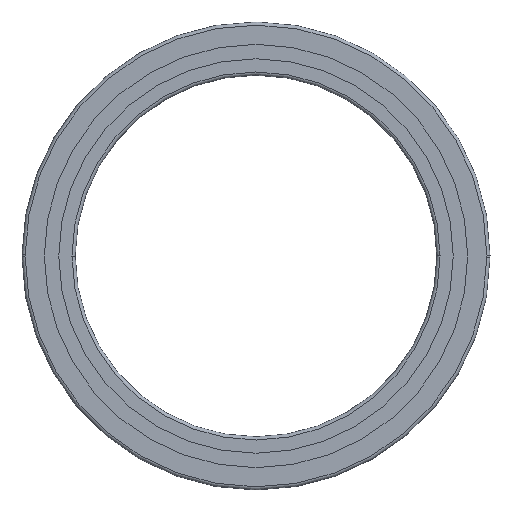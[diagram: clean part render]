
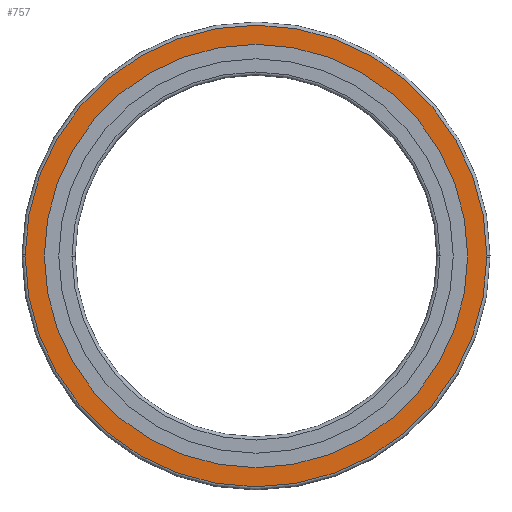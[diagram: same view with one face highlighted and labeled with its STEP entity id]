
A CAD part, front view. The second image highlights one B-rep face of the part: STEP entity #757.
In plain terms, the highlighted planar face has unit normal (0, -1, 0).
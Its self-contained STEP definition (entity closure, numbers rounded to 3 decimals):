
#343=VERTEX_POINT('',#882);
#379=VERTEX_POINT('',#924);
#427=VERTEX_POINT('',#979);
#497=EDGE_CURVE('',#617,#343,#1057,.T.);
#533=EDGE_CURVE('',#379,#427,#1097,.T.);
#561=VERTEX_POINT('',#1129);
#617=VERTEX_POINT('',#1193);
#631=EDGE_CURVE('',#343,#737,#1208,.T.);
#721=EDGE_CURVE('',#561,#617,#1309,.T.);
#737=VERTEX_POINT('',#1328);
#755=EDGE_CURVE('',#737,#561,#1348,.T.);
#757=ADVANCED_FACE('',(#1350,#1351),#1352,.F.);
#819=EDGE_CURVE('',#427,#379,#1420,.T.);
#882=CARTESIAN_POINT('',(-108.5,0.0,0.));
#924=CARTESIAN_POINT('',(-99.5,0.0,0.0));
#979=CARTESIAN_POINT('',(99.5,0.0,0.));
#1057=CIRCLE('',#1706,108.5);
#1097=CIRCLE('',#1759,99.5);
#1129=CARTESIAN_POINT('',(108.5,0.0,0.0));
#1193=CARTESIAN_POINT('',(-108.498,0.0,0.672));
#1208=CIRCLE('',#1892,108.5);
#1309=CIRCLE('',#2013,108.5);
#1328=CARTESIAN_POINT('',(108.498,0.0,-0.672));
#1348=CIRCLE('',#2063,108.5);
#1350=FACE_OUTER_BOUND('',#2065,.T.);
#1351=FACE_BOUND('',#2066,.T.);
#1352=PLANE('',#2067);
#1420=CIRCLE('',#2155,99.5);
#1706=AXIS2_PLACEMENT_3D('',#2430,#2431,#2432);
#1759=AXIS2_PLACEMENT_3D('',#2493,#2494,#2495);
#1892=AXIS2_PLACEMENT_3D('',#2635,#2636,#2637);
#2013=AXIS2_PLACEMENT_3D('',#2780,#2781,#2782);
#2063=AXIS2_PLACEMENT_3D('',#2829,#2830,#2831);
#2065=EDGE_LOOP('',(#2833,#2834,#2835,#2836));
#2066=EDGE_LOOP('',(#2837,#2838));
#2067=AXIS2_PLACEMENT_3D('',#2839,#2840,#2841);
#2155=AXIS2_PLACEMENT_3D('',#2932,#2933,#2934);
#2430=CARTESIAN_POINT('',(0.0,0.0,0.0));
#2431=DIRECTION('',(0.0,-1.0,0.0));
#2432=DIRECTION('',(1.0,0.0,0.0));
#2493=CARTESIAN_POINT('',(0.0,0.0,0.0));
#2494=DIRECTION('',(0.0,-1.0,0.0));
#2495=DIRECTION('',(-1.0,0.0,0.0));
#2635=CARTESIAN_POINT('',(0.0,0.0,0.0));
#2636=DIRECTION('',(0.0,-1.0,0.0));
#2637=DIRECTION('',(-1.0,0.0,0.0));
#2780=CARTESIAN_POINT('',(0.0,0.0,0.0));
#2781=DIRECTION('',(0.0,-1.0,0.0));
#2782=DIRECTION('',(1.0,0.0,0.0));
#2829=CARTESIAN_POINT('',(0.0,0.0,0.0));
#2830=DIRECTION('',(0.0,-1.0,0.0));
#2831=DIRECTION('',(-1.0,0.0,0.0));
#2833=ORIENTED_EDGE('',*,*,#631,.T.);
#2834=ORIENTED_EDGE('',*,*,#755,.T.);
#2835=ORIENTED_EDGE('',*,*,#721,.T.);
#2836=ORIENTED_EDGE('',*,*,#497,.T.);
#2837=ORIENTED_EDGE('',*,*,#533,.F.);
#2838=ORIENTED_EDGE('',*,*,#819,.F.);
#2839=CARTESIAN_POINT('',(0.0,0.0,0.0));
#2840=DIRECTION('',(0.0,1.0,0.0));
#2841=DIRECTION('',(1.0,0.0,-0.0));
#2932=CARTESIAN_POINT('',(0.0,0.0,0.0));
#2933=DIRECTION('',(0.0,-1.0,0.0));
#2934=DIRECTION('',(1.0,0.0,0.0));
